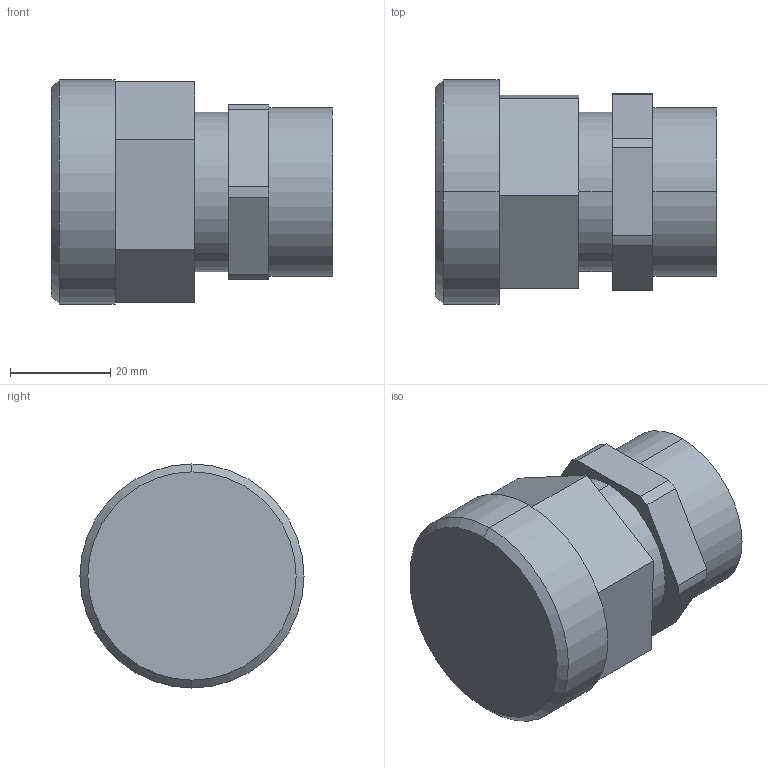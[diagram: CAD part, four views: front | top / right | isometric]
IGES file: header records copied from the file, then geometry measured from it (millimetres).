
Start section: SolidWorks IGES file using analytic representation for surfaces
Global section: file name: S:\Product Visuals\REVISED-60L-TOP-MOUNT-FITTINGS\IGS\top-straight-outlet-only\weldable\16-weldable-with-top-mount-adapter.IGS; native system: SolidWorks 2012; preprocessor: SolidWorks 2012; author: rachel.dressel; date: 121127.141158; units: inch
Bounding box: 56.11 x 44.7 x 44.7 mm (x, y, z)
Volume: 57712.7 mm3; surface area: 11443.4 mm2
Topology: 1 solids, 1 shells, 35 faces, 82 edges, 54 vertices
Faces by surface type: plane 19, revolution 16
